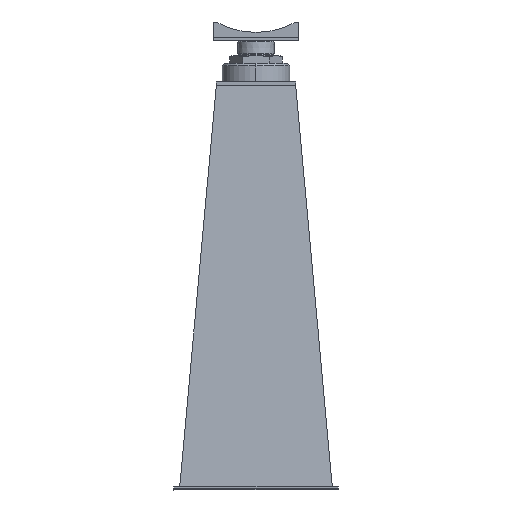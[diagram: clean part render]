
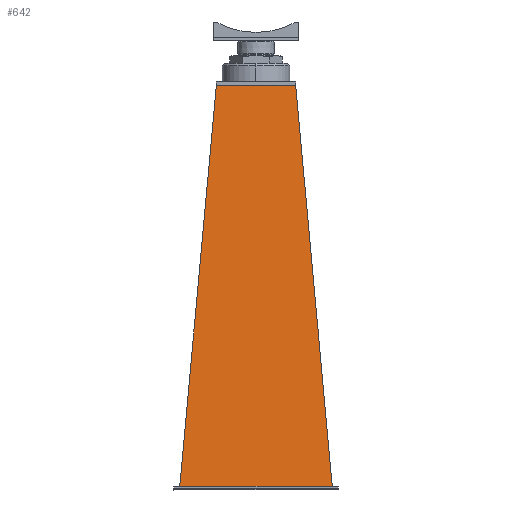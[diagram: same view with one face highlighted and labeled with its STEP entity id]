
A CAD part, left-side view. The second image highlights one B-rep face of the part: STEP entity #642.
In plain terms, the highlighted planar face has unit normal (-0.996, 0, 0.091).
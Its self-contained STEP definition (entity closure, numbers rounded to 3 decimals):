
#642=ADVANCED_FACE('',(#1320),#1321,.T.);
#1320=FACE_OUTER_BOUND('',#2076,.T.);
#1321=PLANE('',#2077);
#2076=EDGE_LOOP('',(#4027,#4028,#4029,#4030));
#2077=AXIS2_PLACEMENT_3D('',#4031,#4032,#4033);
#4027=ORIENTED_EDGE('',*,*,#5068,.T.);
#4028=ORIENTED_EDGE('',*,*,#4816,.F.);
#4029=ORIENTED_EDGE('',*,*,#5056,.T.);
#4030=ORIENTED_EDGE('',*,*,#5083,.T.);
#4031=CARTESIAN_POINT('',(441.404,626.148,220.023));
#4032=DIRECTION('',(-0.996,0.,0.091));
#4033=DIRECTION('',(0.,1.0,0.));
#4816=EDGE_CURVE('',#5805,#5800,#5807,.F.);
#5056=EDGE_CURVE('',#5805,#6119,#6121,.F.);
#5068=EDGE_CURVE('',#6140,#5800,#6143,.T.);
#5083=EDGE_CURVE('',#6119,#6140,#6162,.F.);
#5800=VERTEX_POINT('',#7406);
#5805=VERTEX_POINT('',#7413);
#5807=LINE('',#7416,#7417);
#6119=VERTEX_POINT('',#7985);
#6121=LINE('',#7988,#7989);
#6140=VERTEX_POINT('',#8016);
#6143=LINE('',#8021,#8022);
#6162=LINE('',#8049,#8050);
#7406=CARTESIAN_POINT('',(381.379,439.136,-437.25));
#7413=CARTESIAN_POINT('',(441.379,499.136,219.75));
#7416=CARTESIAN_POINT('',(441.937,499.694,225.86));
#7417=VECTOR('',#8763,1.);
#7985=CARTESIAN_POINT('',(441.379,629.161,219.75));
#7988=CARTESIAN_POINT('',(441.379,595.148,219.75));
#7989=VECTOR('',#8933,1.);
#8016=CARTESIAN_POINT('',(381.379,689.161,-437.25));
#8021=CARTESIAN_POINT('',(381.379,595.148,-437.25));
#8022=VECTOR('',#8944,1.);
#8049=CARTESIAN_POINT('',(441.937,628.603,225.86));
#8050=VECTOR('',#8953,1.);
#8763=DIRECTION('',(0.091,0.091,0.992));
#8933=DIRECTION('',(0.,-1.0,0.));
#8944=DIRECTION('',(0.,-1.0,0.));
#8953=DIRECTION('',(0.091,-0.091,0.992));
